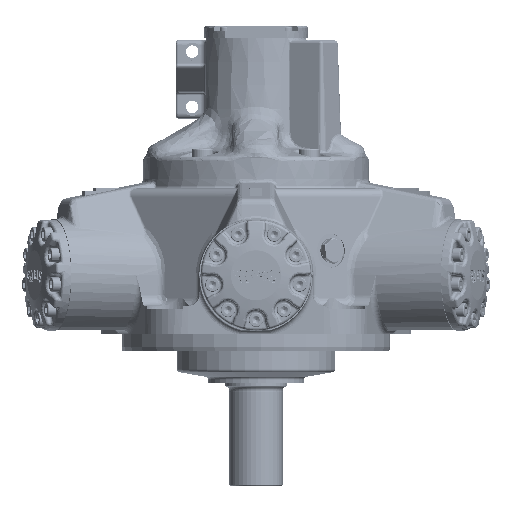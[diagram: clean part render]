
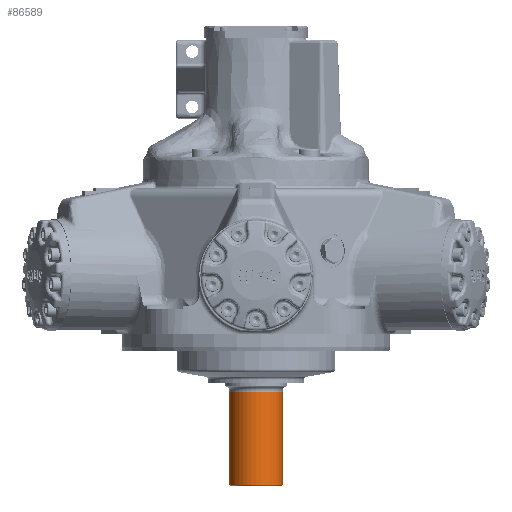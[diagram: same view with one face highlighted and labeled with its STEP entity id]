
A CAD part, front view. The second image highlights one B-rep face of the part: STEP entity #86589.
In plain terms, the highlighted cylindrical face has radius 30.001 mm (diameter 60.002 mm), a full revolution.
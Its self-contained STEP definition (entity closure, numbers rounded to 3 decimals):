
#3263=FACE_BOUND('',#22589,.T.);
#3290=B_SPLINE_CURVE_WITH_KNOTS('',3,(#113027,#113028,#113029,#113030),
 .UNSPECIFIED.,.F.,.F.,(4,4),(0.,0.021),.UNSPECIFIED.);
#3291=B_SPLINE_CURVE_WITH_KNOTS('',3,(#113038,#113039,#113040,#113041),
 .UNSPECIFIED.,.F.,.F.,(4,4),(2.714,2.735),
 .UNSPECIFIED.);
#3292=B_SPLINE_CURVE_WITH_KNOTS('',3,(#113051,#113052,#113053,#113054,#113055,
#113056,#113057,#113058,#113059,#113060,#113061,#113062,#113063,#113064,
#113065,#113066,#113067,#113068),.UNSPECIFIED.,.F.,.F.,(4,2,2,2,2,2,2,2,
4),(-2.735,-2.393,-2.051,-1.709,
-1.367,-1.026,-0.684,-0.342,
0.),.UNSPECIFIED.);
#6678=B_SPLINE_CURVE_WITH_KNOTS('',3,(#207551,#207552,#207553,#207554,#207555,
#207556,#207557,#207558,#207559,#207560),.UNSPECIFIED.,.F.,.F.,(4,2,2,2,
4),(-2.734,-2.392,-2.05,-1.709,
-1.367),.UNSPECIFIED.);
#6679=B_SPLINE_CURVE_WITH_KNOTS('',3,(#207561,#207562,#207563,#207564,#207565,
#207566,#207567,#207568,#207569,#207570),.UNSPECIFIED.,.F.,.F.,(4,2,2,2,
4),(-1.367,-1.025,-0.684,-0.342,
0.),.UNSPECIFIED.);
#8089=CYLINDRICAL_SURFACE('',#93703,30.001);
#11320=CIRCLE('',#93700,30.001);
#11321=CIRCLE('',#93701,30.001);
#11323=CIRCLE('',#93704,30.001);
#11324=CIRCLE('',#93705,30.001);
#17142=FACE_OUTER_BOUND('',#22588,.T.);
#22588=EDGE_LOOP('',(#73082,#73083,#73084,#73085,#73086,#73087));
#22589=EDGE_LOOP('',(#73088,#73089,#73090,#73091,#73092,#73093,#73094,#73095,
#73096));
#23074=LINE('',#113045,#27082);
#23081=LINE('',#113082,#27089);
#23091=LINE('',#113109,#27099);
#26890=LINE('',#207547,#30898);
#26891=LINE('',#207549,#30899);
#27082=VECTOR('',#94396,10.);
#27089=VECTOR('',#94417,10.);
#27099=VECTOR('',#94447,10.);
#30898=VECTOR('',#111486,30.001);
#30899=VECTOR('',#111487,10.);
#31089=VERTEX_POINT('',#113024);
#31090=VERTEX_POINT('',#113026);
#31093=VERTEX_POINT('',#113035);
#31094=VERTEX_POINT('',#113037);
#31095=VERTEX_POINT('',#113044);
#31097=VERTEX_POINT('',#113050);
#31107=VERTEX_POINT('',#113108);
#37770=VERTEX_POINT('',#207536);
#37771=VERTEX_POINT('',#207538);
#37772=VERTEX_POINT('',#207543);
#37773=VERTEX_POINT('',#207544);
#37774=VERTEX_POINT('',#207548);
#37775=VERTEX_POINT('',#207550);
#38388=EDGE_CURVE('',#31090,#31089,#3290,.T.);
#38392=EDGE_CURVE('',#31094,#31093,#3291,.T.);
#38394=EDGE_CURVE('',#31095,#31090,#23074,.T.);
#38397=EDGE_CURVE('',#31097,#31095,#3292,.T.);
#38405=EDGE_CURVE('',#31093,#31097,#23081,.T.);
#38418=EDGE_CURVE('',#31107,#31094,#23091,.T.);
#49613=EDGE_CURVE('',#37771,#37770,#11320,.T.);
#49614=EDGE_CURVE('',#37770,#37771,#11321,.T.);
#49616=EDGE_CURVE('',#37772,#37773,#11323,.T.);
#49617=EDGE_CURVE('',#37773,#37772,#11324,.T.);
#49618=EDGE_CURVE('',#37773,#37771,#26890,.T.);
#49619=EDGE_CURVE('',#31089,#37774,#26891,.T.);
#49620=EDGE_CURVE('',#37774,#37775,#6678,.T.);
#49621=EDGE_CURVE('',#37775,#31107,#6679,.T.);
#73082=ORIENTED_EDGE('',*,*,#49616,.F.);
#73083=ORIENTED_EDGE('',*,*,#49617,.F.);
#73084=ORIENTED_EDGE('',*,*,#49618,.T.);
#73085=ORIENTED_EDGE('',*,*,#49613,.T.);
#73086=ORIENTED_EDGE('',*,*,#49614,.T.);
#73087=ORIENTED_EDGE('',*,*,#49618,.F.);
#73088=ORIENTED_EDGE('',*,*,#38388,.T.);
#73089=ORIENTED_EDGE('',*,*,#49619,.T.);
#73090=ORIENTED_EDGE('',*,*,#49620,.T.);
#73091=ORIENTED_EDGE('',*,*,#49621,.T.);
#73092=ORIENTED_EDGE('',*,*,#38418,.T.);
#73093=ORIENTED_EDGE('',*,*,#38392,.T.);
#73094=ORIENTED_EDGE('',*,*,#38405,.T.);
#73095=ORIENTED_EDGE('',*,*,#38397,.T.);
#73096=ORIENTED_EDGE('',*,*,#38394,.T.);
#86589=ADVANCED_FACE('',(#17142,#3263),#8089,.T.);
#93700=AXIS2_PLACEMENT_3D('',#207539,#111474,#111475);
#93701=AXIS2_PLACEMENT_3D('',#207540,#111476,#111477);
#93703=AXIS2_PLACEMENT_3D('',#207542,#111480,#111481);
#93704=AXIS2_PLACEMENT_3D('',#207545,#111482,#111483);
#93705=AXIS2_PLACEMENT_3D('',#207546,#111484,#111485);
#94396=DIRECTION('',(0.,0.,1.));
#94417=DIRECTION('',(0.,0.,-1.));
#94447=DIRECTION('',(0.,0.,-1.));
#111474=DIRECTION('center_axis',(0.,0.,
-1.));
#111475=DIRECTION('ref_axis',(-1.,0.,0.));
#111476=DIRECTION('center_axis',(0.,0.,
-1.));
#111477=DIRECTION('ref_axis',(-1.,0.,0.));
#111480=DIRECTION('center_axis',(0.,0.,
-1.));
#111481=DIRECTION('ref_axis',(0.,1.,0.));
#111482=DIRECTION('center_axis',(0.,0.,
-1.));
#111483=DIRECTION('ref_axis',(0.,-1.,0.));
#111484=DIRECTION('center_axis',(0.,0.,
-1.));
#111485=DIRECTION('ref_axis',(0.,-1.,0.));
#111486=DIRECTION('',(0.,0.,1.));
#111487=DIRECTION('',(0.,0.,1.));
#113024=CARTESIAN_POINT('',(9.012,28.616,-154.849));
#113026=CARTESIAN_POINT('',(9.014,28.615,-155.061));
#113027=CARTESIAN_POINT('Ctrl Pts',(9.014,28.615,-155.061));
#113028=CARTESIAN_POINT('Ctrl Pts',(9.014,28.615,-154.99));
#113029=CARTESIAN_POINT('Ctrl Pts',(9.013,28.615,-154.92));
#113030=CARTESIAN_POINT('Ctrl Pts',(9.012,28.616,-154.849));
#113035=CARTESIAN_POINT('',(-9.014,28.615,-155.061));
#113037=CARTESIAN_POINT('',(-9.011,28.616,-154.849));
#113038=CARTESIAN_POINT('Ctrl Pts',(-9.011,28.616,
-154.849));
#113039=CARTESIAN_POINT('Ctrl Pts',(-9.013,28.615,-154.92));
#113040=CARTESIAN_POINT('Ctrl Pts',(-9.014,28.615,-154.99));
#113041=CARTESIAN_POINT('Ctrl Pts',(-9.014,28.615,-155.061));
#113044=CARTESIAN_POINT('',(9.014,28.615,-225.558));
#113045=CARTESIAN_POINT('',(9.014,28.615,-183.477));
#113050=CARTESIAN_POINT('',(-9.014,28.615,-225.558));
#113051=CARTESIAN_POINT('Ctrl Pts',(-9.014,28.615,-225.558));
#113052=CARTESIAN_POINT('Ctrl Pts',(-9.014,28.615,-226.698));
#113053=CARTESIAN_POINT('Ctrl Pts',(-8.785,28.69,
-227.908));
#113054=CARTESIAN_POINT('Ctrl Pts',(-7.863,28.956,
-230.127));
#113055=CARTESIAN_POINT('Ctrl Pts',(-7.17,29.143,-231.135));
#113056=CARTESIAN_POINT('Ctrl Pts',(-5.578,29.489,
-232.728));
#113057=CARTESIAN_POINT('Ctrl Pts',(-4.569,29.672,
-233.421));
#113058=CARTESIAN_POINT('Ctrl Pts',(-2.35,29.93,
-234.343));
#113059=CARTESIAN_POINT('Ctrl Pts',(-1.139,30.001,
-234.572));
#113060=CARTESIAN_POINT('Ctrl Pts',(1.139,30.001,-234.572));
#113061=CARTESIAN_POINT('Ctrl Pts',(2.35,29.93,-234.343));
#113062=CARTESIAN_POINT('Ctrl Pts',(4.569,29.672,-233.421));
#113063=CARTESIAN_POINT('Ctrl Pts',(5.578,29.489,-232.728));
#113064=CARTESIAN_POINT('Ctrl Pts',(7.17,29.143,-231.135));
#113065=CARTESIAN_POINT('Ctrl Pts',(7.863,28.956,-230.127));
#113066=CARTESIAN_POINT('Ctrl Pts',(8.785,28.69,-227.908));
#113067=CARTESIAN_POINT('Ctrl Pts',(9.014,28.615,-226.698));
#113068=CARTESIAN_POINT('Ctrl Pts',(9.014,28.615,-225.558));
#113082=CARTESIAN_POINT('',(-9.014,28.615,-183.477));
#113108=CARTESIAN_POINT('',(-9.011,28.616,-154.427));
#113109=CARTESIAN_POINT('',(-9.011,28.616,-183.477));
#207536=CARTESIAN_POINT('',(30.001,0.,-130.352));
#207538=CARTESIAN_POINT('',(0.,-30.001,-130.352));
#207539=CARTESIAN_POINT('Origin',(0.,0.,
-130.352));
#207540=CARTESIAN_POINT('Origin',(0.,0.,
-130.352));
#207542=CARTESIAN_POINT('Origin',(0.,0.,
-183.477));
#207543=CARTESIAN_POINT('',(0.,30.001,-235.077));
#207544=CARTESIAN_POINT('',(0.,-30.001,-235.077));
#207545=CARTESIAN_POINT('Origin',(0.,0.,
-235.077));
#207546=CARTESIAN_POINT('Origin',(0.,0.,
-235.077));
#207547=CARTESIAN_POINT('',(0.,-30.001,-183.477));
#207548=CARTESIAN_POINT('',(9.012,28.616,-154.427));
#207549=CARTESIAN_POINT('',(9.012,28.616,-183.477));
#207550=CARTESIAN_POINT('',(0.,30.001,-145.415));
#207551=CARTESIAN_POINT('Ctrl Pts',(9.012,28.616,-154.427));
#207552=CARTESIAN_POINT('Ctrl Pts',(9.012,28.616,-153.288));
#207553=CARTESIAN_POINT('Ctrl Pts',(8.782,28.691,-152.078));
#207554=CARTESIAN_POINT('Ctrl Pts',(7.861,28.957,-149.86));
#207555=CARTESIAN_POINT('Ctrl Pts',(7.168,29.144,-148.851));
#207556=CARTESIAN_POINT('Ctrl Pts',(5.576,29.49,-147.259));
#207557=CARTESIAN_POINT('Ctrl Pts',(4.567,29.673,-146.566));
#207558=CARTESIAN_POINT('Ctrl Pts',(2.349,29.93,-145.645));
#207559=CARTESIAN_POINT('Ctrl Pts',(1.139,30.001,-145.415));
#207560=CARTESIAN_POINT('Ctrl Pts',(0.,30.001,
-145.415));
#207561=CARTESIAN_POINT('Ctrl Pts',(0.,30.001,
-145.415));
#207562=CARTESIAN_POINT('Ctrl Pts',(-1.139,30.001,
-145.415));
#207563=CARTESIAN_POINT('Ctrl Pts',(-2.349,29.93,-145.645));
#207564=CARTESIAN_POINT('Ctrl Pts',(-4.567,29.673,
-146.566));
#207565=CARTESIAN_POINT('Ctrl Pts',(-5.576,29.49,
-147.259));
#207566=CARTESIAN_POINT('Ctrl Pts',(-7.168,29.144,
-148.851));
#207567=CARTESIAN_POINT('Ctrl Pts',(-7.861,28.957,
-149.86));
#207568=CARTESIAN_POINT('Ctrl Pts',(-8.782,28.691,
-152.078));
#207569=CARTESIAN_POINT('Ctrl Pts',(-9.011,28.616,
-153.288));
#207570=CARTESIAN_POINT('Ctrl Pts',(-9.011,28.616,
-154.427));
